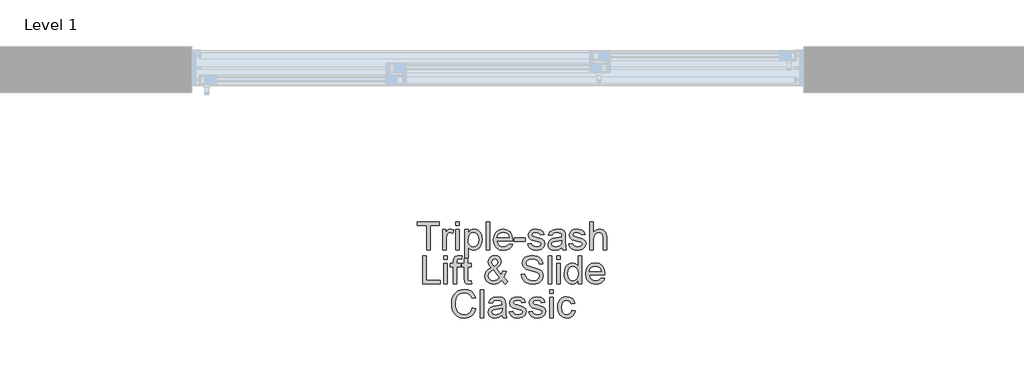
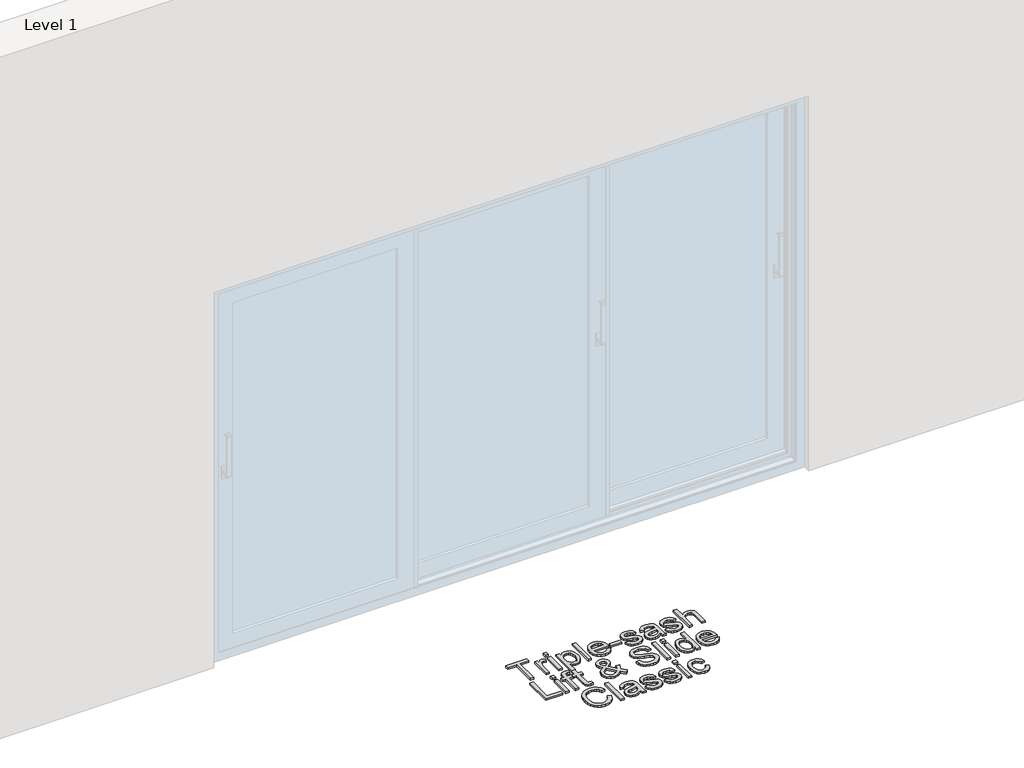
# One storey, part 10 of 17: 1 proxy.
"""IFC4 building model written with IfcOpenShell, lengths in millimetres."""

import ifcopenshell
import ifcopenshell.guid

model = None  # the IFC model being written
_history = None  # IfcOwnerHistory: only IFC2X3 demands one
_inside = {}  # id of a spatial element -> (the spatial element, [elements in it])
_under = {}  # id of a project, library or spatial element -> (it, [spatial elements below it])
_declared = {}  # id of a project -> (the project, [libraries it declares])
_typed = {}  # id of a type object -> (the type object, [elements of that type])
_made_of = {}  # id of a material, layer set ... -> (it, [elements and type objects made of it])


def new_model(schema):
    """Start an empty IFC model of exactly this schema.

    Asked for "IFC4X3", IfcOpenShell would pick the latest addendum, in which some entities
    have other attributes; the version numbers below select the first issue.
    IFC2X3 requires an IfcOwnerHistory on every rooted entity: one is made here for all.
    """
    global model, _history
    if schema == "IFC4X3":
        model = ifcopenshell.file(schema_version=(4, 3, 0, 0))
    else:
        model = ifcopenshell.file(schema=schema)
    _inside.clear()
    _under.clear()
    _declared.clear()
    _typed.clear()
    _made_of.clear()
    _history = None
    if model.schema == "IFC2X3":
        org = make("IfcOrganization", Name="unknown")
        user = make(
            "IfcPersonAndOrganization",
            ThePerson=make("IfcPerson", FamilyName="unknown"),
            TheOrganization=org,
        )
        app = make(
            "IfcApplication",
            ApplicationDeveloper=org,
            Version="unknown",
            ApplicationFullName="unknown",
            ApplicationIdentifier="unknown",
        )
        _history = make(
            "IfcOwnerHistory",
            OwningUser=user,
            OwningApplication=app,
            ChangeAction="ADDED",
            CreationDate=0,
        )
    return model


def make(cls, **values):
    """One entity of the class cls with the attributes given. An attribute that is None is left unset."""
    return model.create_entity(
        cls, **{name: value for name, value in values.items() if value is not None}
    )


def rooted(cls, **values):
    """An entity with a GlobalId (a new one), such as an element, a storey or a relation."""
    return make(cls, GlobalId=ifcopenshell.guid.new(), OwnerHistory=_history, **values)


def si_unit(unit_type, name, prefix=None):
    """IfcSIUnit, for example si_unit("LENGTHUNIT", "METRE", prefix="MILLI")."""
    return make("IfcSIUnit", UnitType=unit_type, Prefix=prefix, Name=name)


def assignment(units):
    """IfcUnitAssignment: the units of a project."""
    return None if units is None else make("IfcUnitAssignment", Units=units)


def point(xyz):
    """IfcCartesianPoint."""
    return None if xyz is None else make("IfcCartesianPoint", Coordinates=xyz)


def direction(xyz):
    """IfcDirection."""
    return None if xyz is None else make("IfcDirection", DirectionRatios=xyz)


def frame(location, z_axis=None, x_axis=None):
    """IfcAxis2Placement3D, a coordinate frame: its origin and axes. An axis left out is left unset."""
    return make(
        "IfcAxis2Placement3D",
        Location=point(location),
        Axis=direction(z_axis),
        RefDirection=direction(x_axis),
    )


def origin():
    """The frame at (0, 0, 0) with its axes left unset."""
    return frame((0.0, 0.0, 0.0))


def origin_with_axes():
    """The frame at (0, 0, 0) with the z axis (0, 0, 1) and the x axis (1, 0, 0) written out."""
    return frame((0.0, 0.0, 0.0), z_axis=(0.0, 0.0, 1.0), x_axis=(1.0, 0.0, 0.0))


def place(relative_to, where):
    """IfcLocalPlacement: puts the frame where relative to a parent placement (None: the world)."""
    return make(
        "IfcLocalPlacement", PlacementRelTo=relative_to, RelativePlacement=where
    )


def context(
    kind, dimensions, precision=None, world=None, true_north=None, identifier=None
):
    """IfcGeometricRepresentationContext, for example the 3D "Model" context."""
    return make(
        "IfcGeometricRepresentationContext",
        ContextIdentifier=identifier,
        ContextType=kind,
        CoordinateSpaceDimension=dimensions,
        Precision=precision,
        WorldCoordinateSystem=world,
        TrueNorth=true_north,
    )


def project(units=None, contexts=None):
    """IfcProject with its units and contexts."""
    return rooted(
        "IfcProject",
        Name="project",
        RepresentationContexts=contexts,
        UnitsInContext=assignment(units),
    )


def spatial(cls, under=None, at=None, **own):
    """A site, building, storey or space (cls), placed at a placement, below another one or the project."""
    s = rooted(cls, ObjectPlacement=at, **own)
    if under is not None:
        _under.setdefault(under.id(), (under, []))[1].append(s)
    return s


def polyline(points):
    """IfcPolyline through the points."""
    return make("IfcPolyline", Points=[point(p) for p in points])


def outline(outer, holes=None, kind="AREA"):
    """IfcArbitraryClosedProfileDef: a profile drawn as a closed curve; with holes, ...WithVoids."""
    if holes is None:
        return make("IfcArbitraryClosedProfileDef", ProfileType=kind, OuterCurve=outer)
    return make(
        "IfcArbitraryProfileDefWithVoids",
        ProfileType=kind,
        OuterCurve=outer,
        InnerCurves=holes,
    )


def extrude(swept, where, along, depth):
    """IfcExtrudedAreaSolid: the profile swept, set in the frame where, extruded along a direction by depth."""
    return make(
        "IfcExtrudedAreaSolid",
        SweptArea=swept,
        Position=where,
        ExtrudedDirection=direction(along),
        Depth=depth,
    )


def shape(context_of_items, identifier, shape_type, items):
    """IfcShapeRepresentation: the items that make up one representation, for example the "Body"."""
    return make(
        "IfcShapeRepresentation",
        ContextOfItems=context_of_items,
        RepresentationIdentifier=identifier,
        RepresentationType=shape_type,
        Items=items,
    )


def made_of(thing, what):
    """Note that an element or type object is made of a material, layer set ...; save() writes the relation."""
    if what is not None:
        _made_of.setdefault(what.id(), (what, []))[1].append(thing)
    return thing


def element(
    cls,
    number,
    at=None,
    inside=None,
    cuts=None,
    type_object=None,
    material=None,
    context=None,
    identifier="Body",
    shape_type=None,
    held_by="IfcProductDefinitionShape",
    body=None,
    shapes=None,
    **own,
):
    """One element of the class cls, such as IfcWall. Its Tag is "e" and its number.

    at: its placement. inside: the storey or other place that contains it. cuts: it is an
    opening in that element (IfcRelVoidsElement). A single representation is given by context,
    identifier, shape_type and body (its items); several are given by shapes. held_by: the class
    of the entity that holds the representations. save() writes the other relations.
    """
    e = rooted(cls, Tag="e%d" % number, ObjectPlacement=at, **own)
    if body is not None:
        shapes = [shape(context, identifier, shape_type, body)]
    if shapes is not None:
        e.Representation = make(held_by, Representations=shapes)
    if inside is not None:
        _inside.setdefault(inside.id(), (inside, []))[1].append(e)
    if cuts is not None:
        rooted(
            "IfcRelVoidsElement", RelatingBuildingElement=cuts, RelatedOpeningElement=e
        )
    if type_object is not None:
        _typed.setdefault(type_object.id(), (type_object, []))[1].append(e)
    return made_of(e, material)


def aggregate(whole, parts):
    """IfcRelAggregates: a whole, such as a stair, and the parts it consists of."""
    return rooted("IfcRelAggregates", RelatingObject=whole, RelatedObjects=parts)


def save(model, path):
    """Write the relations noted so far, then the file.

    IfcRelAggregates (storeys below a building ...), IfcRelContainedInSpatialStructure (elements
    in a storey), IfcRelDefinesByType, IfcRelAssociatesMaterial and IfcRelDeclares: one each for
    every whole, place, type object, material and project.
    """
    for whole, parts in _under.values():
        aggregate(whole, parts)
    for where, things in _inside.values():
        rooted(
            "IfcRelContainedInSpatialStructure",
            RelatedElements=things,
            RelatingStructure=where,
        )
    for kind, things in _typed.values():
        rooted("IfcRelDefinesByType", RelatedObjects=things, RelatingType=kind)
    for what, things in _made_of.values():
        rooted("IfcRelAssociatesMaterial", RelatedObjects=things, RelatingMaterial=what)
    for by, libraries in _declared.values():
        rooted("IfcRelDeclares", RelatingContext=by, RelatedDefinitions=libraries)
    model.write(path)


model = new_model("IFC4")

# Units and contexts
model_context = context("Model", 3, world=origin())
ifc_project = project(units=[si_unit("LENGTHUNIT", "METRE", prefix="MILLI")], contexts=[model_context])

# Site, building, storey
site = spatial("IfcSite", under=ifc_project)
building = spatial("IfcBuilding", under=site)
storey = spatial("IfcBuildingStorey", under=building, Name="Level 1", Elevation=0.0)

# Proxy
placement = place(None, origin())
element("IfcBuildingElementProxy", 1, Name="150mm Arial", ObjectType="150mm Arial", at=placement, inside=storey, context=model_context, shape_type="SweptSolid", body=[
    extrude(outline(polyline([(12044.3509661, -991.3626427), (12044.3509661, -859.5137356), (11994.907626, -859.5137356), (11994.907626, -840.6781775), (12112.6298644, -840.6781775), (12112.6298644, -859.5137356), (12063.1865243, -859.5137356), (12063.1865243, -991.3626427), (12044.3509661, -991.3626427)])), origin_with_axes(), (0.0, 0.0, 1.0), 10.0),
    extrude(outline(polyline([(12131.4654226, -991.3626427), (12131.4654226, -880.7037385), (12147.946536, -880.7037385), (12147.946536, -897.0744873), (12159.6451834, -881.9913255), (12171.4174073, -878.3492938), (12190.3265418, -884.1618293), (12184.0357597, -901.0476129), (12170.7920079, -897.1848519), (12160.1418241, -900.9004601), (12153.3544013, -911.2011559), (12150.3009807, -933.2004992), (12150.3009807, -991.3626427), (12131.4654226, -991.3626427)])), origin_with_axes(), (0.0, 0.0, 1.0), 10.0),
    extrude(outline(polyline([(12202.0987657, -859.5137356), (12202.0987657, -840.6781775), (12220.9343238, -840.6781775), (12220.9343238, -859.5137356), (12202.0987657, -859.5137356)])), origin_with_axes(), (0.0, 0.0, 1.0), 10.0),
    extrude(outline(polyline([(12202.0987657, -991.3626427), (12202.0987657, -880.7037385), (12220.9343238, -880.7037385), (12220.9343238, -991.3626427), (12202.0987657, -991.3626427)])), origin_with_axes(), (0.0, 0.0, 1.0), 10.0),
    extrude(outline(polyline([(12249.1876611, -1033.7426485), (12249.1876611, -880.7037385), (12268.0232192, -880.7037385), (12268.0232192, -899.1714147), (12281.0462418, -883.554824), (12298.6310012, -878.3492938), (12311.3689153, -880.1703096), (12322.5065427, -885.6333573), (12331.5748339, -894.4073429), (12338.1047393, -906.1611726), (12343.3654518, -935.187062), (12341.8801283, -951.2956949), (12337.4241576, -965.7028735), (12330.1400941, -977.6774325), (12320.170492, -986.4882062), (12308.5592165, -991.9098671), (12296.3501328, -993.7170875), (12279.9609899, -988.8794392), (12268.0232192, -976.6473629), (12268.0232192, -1033.7426485), (12249.1876611, -1033.7426485)]), holes=[polyline([(12268.0232192, -936.9161074), (12270.0603658, -953.801891), (12276.1718054, -965.610903), (12285.1895128, -972.5638727), (12295.9454626, -974.8815293), (12306.8761564, -972.4810993), (12316.1237901, -965.2798092), (12322.4283678, -953.0385358), (12324.5298937, -935.5181558), (12322.4789515, -918.7243427), (12316.3261252, -906.7497838), (12307.3222133, -899.5760849), (12296.7180148, -897.1848519), (12286.0724296, -899.7278362), (12276.7236284, -907.3567891), (12270.1983215, -919.8325872), (12268.0232192, -936.9161074)])]), origin_with_axes(), (0.0, 0.0, 1.0), 10.0),
    extrude(outline(polyline([(12364.5554547, -991.3626427), (12364.5554547, -840.6781775), (12383.3910129, -840.6781775), (12383.3910129, -991.3626427), (12364.5554547, -991.3626427)])), origin_with_axes(), (0.0, 0.0, 1.0), 10.0),
    extrude(outline(polyline([(12489.1202983, -958.4004159), (12507.5879745, -960.7548607), (12500.9339089, -974.6699972), (12490.3159148, -985.0718606), (12475.9731155, -991.5557807), (12458.1446343, -993.7170875), (12436.0441235, -989.9876837), (12419.0387782, -978.7994725), (12408.1954564, -960.8790209), (12404.5810158, -936.9528956), (12408.2322446, -912.2220285), (12419.185931, -893.7267612), (12435.96135, -882.1936606), (12457.0777765, -878.3492938), (12477.536614, -882.1844636), (12493.8843701, -893.689973), (12504.6035318, -912.1484521), (12508.1765857, -936.842531), (12508.0662211, -941.9193025), (12423.416574, -941.9193025), (12426.6769281, -956.01838), (12434.2506987, -966.3834552), (12445.1813925, -972.7570108), (12458.5125163, -974.8815293), (12476.9801925, -970.9451919), (12489.1202983, -958.4004159)]), holes=[polyline([(12423.416574, -923.0837444), (12489.3410275, -923.0837444), (12486.7934447, -913.1325364), (12481.7994466, -906.0140198), (12470.818169, -899.3921439), (12457.0042001, -897.1848519), (12444.3076728, -898.946087), (12433.8092403, -904.2297921), (12426.5113813, -912.4657503), (12423.416574, -923.0837444)])]), origin_with_axes(), (0.0, 0.0, 1.0), 10.0),
    extrude(outline(polyline([(12517.5943647, -946.6281921), (12517.5943647, -927.7926339), (12576.455484, -927.7926339), (12576.455484, -946.6281921), (12517.5943647, -946.6281921)])), origin_with_axes(), (0.0, 0.0, 1.0), 10.0),
    extrude(outline(polyline([(12590.5821526, -958.4004159), (12609.4177107, -956.0459711), (12612.3883578, -964.1025868), (12618.136514, -970.025487), (12638.1125064, -974.8815293), (12657.3159465, -970.4301572), (12663.5699404, -959.9823085), (12661.9972449, -955.1814485), (12657.2791583, -951.5210226), (12637.8917772, -946.1499455), (12609.5280753, -936.9345015), (12597.1488462, -926.1739531), (12592.9365973, -910.9804267), (12596.3211117, -896.9457286), (12605.5549498, -886.2219685), (12617.5295087, -880.6485562), (12633.7347106, -878.3492938), (12656.6537589, -882.0465078), (12671.2218859, -892.0528981), (12677.696609, -908.9570758), (12658.8610509, -911.3115205), (12651.7793225, -900.9188542), (12635.2062386, -897.1848519), (12617.1800208, -900.7533073), (12611.7721555, -909.0674404), (12614.0162357, -914.5488821), (12621.0427818, -918.7059486), (12637.2663778, -922.7158624), (12664.9127097, -931.5818185), (12677.7517913, -941.6249969), (12682.4054986, -957.9957457), (12676.9424509, -976.0219635), (12661.1787074, -989.1001684), (12637.854989, -993.7170875), (12618.863081, -991.4914014), (12605.0031268, -984.8143432), (12595.7508946, -973.7594892), (12590.5821526, -958.4004159)])), origin_with_axes(), (0.0, 0.0, 1.0), 10.0),
    extrude(outline(polyline([(12774.2288446, -977.2359741), (12755.9635035, -990.0014793), (12735.7851761, -993.7170875), (12720.0444252, -991.4822043), (12708.4331497, -984.777555), (12701.2732464, -974.5964208), (12698.886612, -961.9320831), (12702.4918555, -947.0328623), (12711.9648169, -936.2171316), (12725.1533864, -930.0367141), (12741.4505588, -927.2040227), (12774.11848, -920.7292996), (12774.2288446, -916.5354449), (12772.9320605, -908.1293413), (12769.0417084, -902.6295054), (12760.3412992, -898.5460153), (12748.2195875, -897.1848519), (12729.1633002, -900.8084896), (12720.0766149, -913.6659653), (12701.2410567, -911.3115205), (12709.3896429, -892.9174208), (12725.7971799, -882.1384783), (12750.6476087, -878.3492938), (12773.4746865, -881.6970199), (12786.3689504, -890.1031235), (12792.1446977, -902.8870228), (12793.0644027, -919.3681362), (12793.0644027, -942.8022193), (12794.0208959, -975.5253228), (12797.7732923, -991.3626427), (12778.9377341, -991.3626427), (12774.2288446, -977.2359741)]), holes=[polyline([(12774.2288446, -939.5648578), (12743.8417918, -945.3406051), (12727.6365899, -948.3940256), (12720.2973441, -953.3604326), (12717.7221701, -960.6077079), (12723.3323705, -970.7980392), (12739.7950898, -974.8815293), (12758.8513772, -970.3749749), (12771.1386358, -959.4672737), (12774.11848, -944.8991467), (12774.2288446, -939.5648578)])]), origin_with_axes(), (0.0, 0.0, 1.0), 10.0),
    extrude(outline(polyline([(12811.8999609, -958.4004159), (12830.735519, -956.0459711), (12833.7061661, -964.1025868), (12839.4543223, -970.025487), (12859.4303147, -974.8815293), (12878.6337548, -970.4301572), (12884.8877487, -959.9823085), (12883.3150532, -955.1814485), (12878.5969666, -951.5210226), (12859.2095855, -946.1499455), (12830.8458836, -936.9345015), (12818.4666545, -926.1739531), (12814.2544056, -910.9804267), (12817.63892, -896.9457286), (12826.8727581, -886.2219685), (12838.847317, -880.6485562), (12855.0525189, -878.3492938), (12877.9715672, -882.0465078), (12892.5396942, -892.0528981), (12899.0144173, -908.9570758), (12880.1788592, -911.3115205), (12873.0971308, -900.9188542), (12856.5240469, -897.1848519), (12838.4978291, -900.7533073), (12833.0899638, -909.0674404), (12835.334044, -914.5488821), (12842.3605901, -918.7059486), (12858.5841861, -922.7158624), (12886.230518, -931.5818185), (12899.0695996, -941.6249969), (12903.7233069, -957.9957457), (12898.2602592, -976.0219635), (12882.4965157, -989.1001684), (12859.1727973, -993.7170875), (12840.1808893, -991.4914014), (12826.3209351, -984.8143432), (12817.0687029, -973.7594892), (12811.8999609, -958.4004159)])), origin_with_axes(), (0.0, 0.0, 1.0), 10.0),
    extrude(outline(polyline([(12924.9133098, -991.3626427), (12924.9133098, -840.6781775), (12943.7488679, -840.6781775), (12943.7488679, -896.0812059), (12958.4365566, -882.7822718), (12976.5271537, -878.3492938), (12997.6803684, -883.186942), (13010.5194501, -896.5594525), (13014.382211, -921.3179108), (13014.382211, -991.3626427), (12995.5466529, -991.3626427), (12995.5466529, -923.2676854), (12994.0475337, -911.4770674), (12989.5501763, -903.4020576), (12982.302901, -898.7391533), (12972.5540282, -897.1848519), (12957.1213785, -901.3787067), (12946.8206826, -912.7462603), (12943.7488679, -932.5750999), (12943.7488679, -991.3626427), (12924.9133098, -991.3626427)])), origin_with_axes(), (0.0, 0.0, 1.0), 10.0),
    extrude(outline(polyline([(12023.1609632, -1174.3248694), (12023.1609632, -1023.6404042), (12041.9965214, -1023.6404042), (12041.9965214, -1155.4893113), (12117.338754, -1155.4893113), (12117.338754, -1174.3248694), (12023.1609632, -1174.3248694)])), origin_with_axes(), (0.0, 0.0, 1.0), 10.0),
    extrude(outline(polyline([(12136.1743121, -1042.4759624), (12136.1743121, -1023.6404042), (12155.0098703, -1023.6404042), (12155.0098703, -1042.4759624), (12136.1743121, -1042.4759624)])), origin_with_axes(), (0.0, 0.0, 1.0), 10.0),
    extrude(outline(polyline([(12136.1743121, -1174.3248694), (12136.1743121, -1063.6659653), (12155.0098703, -1063.6659653), (12155.0098703, -1174.3248694), (12136.1743121, -1174.3248694)])), origin_with_axes(), (0.0, 0.0, 1.0), 10.0),
    extrude(outline(polyline([(12187.9720971, -1174.3248694), (12187.9720971, -1082.5015235), (12171.4909837, -1082.5015235), (12171.4909837, -1063.6659653), (12187.9720971, -1063.6659653), (12187.9720971, -1052.5191408), (12189.9586598, -1036.8105797), (12199.5971681, -1025.5901788), (12218.5798791, -1021.2859595), (12235.7599682, -1023.3460986), (12233.0008533, -1041.0044344), (12222.1483344, -1040.1215176), (12210.2841401, -1043.2485146), (12206.8076552, -1054.9103738), (12206.8076552, -1063.6659653), (12227.9976581, -1063.6659653), (12227.9976581, -1082.5015235), (12206.8076552, -1082.5015235), (12206.8076552, -1174.3248694), (12187.9720971, -1174.3248694)])), origin_with_axes(), (0.0, 0.0, 1.0), 10.0),
    extrude(outline(polyline([(12284.5043326, -1158.6163083), (12286.8587774, -1174.8766924), (12272.7688969, -1176.6793142), (12256.9867593, -1173.5523173), (12249.1140847, -1165.3485488), (12246.8332163, -1143.9746048), (12246.8332163, -1082.5015235), (12232.7065477, -1082.5015235), (12232.7065477, -1063.6659653), (12246.8332163, -1063.6659653), (12246.8332163, -1036.7737915), (12265.6687744, -1025.7005434), (12265.6687744, -1063.6659653), (12284.5043326, -1063.6659653), (12284.5043326, -1082.5015235), (12265.6687744, -1082.5015235), (12265.6687744, -1143.4227819), (12266.6620558, -1153.1348665), (12269.8810233, -1156.5745632), (12276.3005641, -1157.8437561), (12284.5043326, -1158.6163083)])), origin_with_axes(), (0.0, 0.0, 1.0), 10.0),
    extrude(outline(polyline([(12448.6164906, -1155.7100405), (12428.6404983, -1171.4369958), (12405.2799916, -1176.6793142), (12384.4946589, -1172.7981592), (12368.4917921, -1161.154694), (12360.2420383, -1147.7545923), (12357.4921204, -1132.8645686), (12359.7040109, -1119.666802), (12366.3396824, -1107.8118047), (12377.3715437, -1097.3087738), (12392.7720038, -1088.1669062), (12379.6202224, -1069.1106188), (12376.3276786, -1054.9839502), (12378.9212467, -1042.2644302), (12386.7019508, -1031.3291379), (12398.4097953, -1023.7967541), (12412.7847843, -1021.2859595), (12426.4607975, -1023.6863895), (12437.3960898, -1030.8876795), (12444.5697887, -1041.4550898), (12446.9610217, -1053.9538806), (12445.1905896, -1064.4477145), (12439.8792933, -1074.1506022), (12418.634108, -1091.1835385), (12445.8941639, -1125.1390467), (12454.024356, -1104.2801376), (12472.8599141, -1108.3636277), (12459.5425859, -1139.3760799), (12482.2776932, -1162.1847636), (12468.1510246, -1176.6793142), (12448.6164906, -1155.7100405)]), holes=[polyline([(12409.1059644, -1079.3009501), (12424.5937964, -1067.6206967), (12428.1254635, -1056.5290546), (12423.4717563, -1044.7016484), (12411.8282911, -1040.1215176), (12399.9273086, -1044.6648602), (12395.1632367, -1055.7565024), (12396.7819175, -1062.6542898), (12401.6747481, -1070.3246294), (12409.1059644, -1079.3009501)]), polyline([(12435.9981382, -1142.1351949), (12402.3737238, -1100.1598592), (12381.6803616, -1115.9419968), (12376.3276786, -1130.362971), (12378.1578915, -1139.2473212), (12383.6485303, -1148.4627652), (12392.4960923, -1155.4985083), (12404.3970748, -1157.8437561), (12421.7059227, -1153.4659603), (12435.9981382, -1142.1351949)])]), origin_with_axes(), (0.0, 0.0, 1.0), 10.0),
    extrude(outline(polyline([(12555.265481, -1122.5270845), (12574.1010392, -1122.5270845), (12580.1710921, -1141.3810368), (12594.9967365, -1153.3004134), (12617.584691, -1157.8437561), (12637.2663778, -1154.4040594), (12649.9767007, -1144.9494921), (12654.1521613, -1132.3127456), (12651.0251644, -1120.5589159), (12638.222871, -1112.0056595), (12610.7972682, -1104.8135665), (12581.2747381, -1095.5245461), (12565.2534772, -1081.5082421), (12559.9743706, -1062.7830485), (12561.6068469, -1051.7511872), (12566.504276, -1041.4642869), (12574.5378991, -1032.7454836), (12585.5789574, -1026.4179133), (12613.5012009, -1021.2859595), (12643.2996425, -1026.6570366), (12654.7223784, -1033.2881095), (12663.1652702, -1042.4391742), (12668.5087562, -1053.5400134), (12670.6332747, -1066.0204101), (12651.7977166, -1066.0204101), (12648.3396258, -1054.7816151), (12641.1291387, -1046.6698171), (12629.8627526, -1041.7585925), (12614.2369649, -1040.1215176), (12598.2432951, -1041.7401984), (12587.2712146, -1046.5962407), (12580.9252502, -1053.7423485), (12578.8099287, -1062.2312255), (12580.3090479, -1069.4693038), (12584.8064053, -1075.2910363), (12615.56134, -1085.8124614), (12648.8914488, -1095.2670287), (12659.6290045, -1102.1004367), (12667.1200017, -1110.5341315), (12671.52079, -1120.4761424), (12672.9877195, -1131.834499), (12671.3000608, -1143.4457745), (12666.2370849, -1154.3672712), (12658.0057252, -1163.7666562), (12646.8129155, -1170.8115964), (12633.353033, -1175.2123848), (12618.320455, -1176.6793142), (12599.8665744, -1175.0974216), (12584.6776466, -1170.3517439), (12572.5789274, -1162.4238869), (12563.3956731, -1151.2954566), (12557.5003642, -1137.739005), (12555.265481, -1122.5270845)])), origin_with_axes(), (0.0, 0.0, 1.0), 10.0),
    extrude(outline(polyline([(12698.886612, -1174.3248694), (12698.886612, -1023.6404042), (12717.7221701, -1023.6404042), (12717.7221701, -1174.3248694), (12698.886612, -1174.3248694)])), origin_with_axes(), (0.0, 0.0, 1.0), 10.0),
    extrude(outline(polyline([(12745.9755073, -1042.4759624), (12745.9755073, -1023.6404042), (12764.8110655, -1023.6404042), (12764.8110655, -1042.4759624), (12745.9755073, -1042.4759624)])), origin_with_axes(), (0.0, 0.0, 1.0), 10.0),
    extrude(outline(polyline([(12745.9755073, -1174.3248694), (12745.9755073, -1063.6659653), (12764.8110655, -1063.6659653), (12764.8110655, -1174.3248694), (12745.9755073, -1174.3248694)])), origin_with_axes(), (0.0, 0.0, 1.0), 10.0),
    extrude(outline(polyline([(12861.343301, -1174.3248694), (12861.343301, -1156.5561691), (12848.8812984, -1171.6485279), (12831.655224, -1176.6793142), (12819.47833, -1174.8582983), (12808.3315055, -1169.3952507), (12798.8953323, -1160.6718489), (12791.8503921, -1149.0697705), (12787.4633993, -1135.058065), (12786.0010684, -1119.105782), (12791.3905396, -1089.1233994), (12798.1227802, -1077.2316139), (12807.5405592, -1068.4852194), (12818.9311055, -1063.1049453), (12831.5816476, -1061.3115205), (12848.9456778, -1066.4434744), (12861.343301, -1079.7791967), (12861.343301, -1023.6404042), (12880.1788592, -1023.6404042), (12880.1788592, -1174.3248694), (12861.343301, -1174.3248694)]), holes=[polyline([(12804.8366266, -1119.0322056), (12806.9611451, -1136.0697405), (12813.3347007, -1148.1868537), (12822.5961299, -1155.4295305), (12833.3842694, -1157.8437561), (12844.1678104, -1155.5398951), (12853.1947148, -1148.6283121), (12859.3061545, -1136.9802484), (12861.343301, -1120.4669454), (12859.2693663, -1102.4131364), (12853.047562, -1089.8959516), (12843.7907313, -1082.5842969), (12832.6117172, -1080.1470787), (12821.7132131, -1082.4877279), (12812.7828777, -1089.5096755), (12806.8231893, -1101.5716064), (12804.8366266, -1119.0322056)])]), origin_with_axes(), (0.0, 0.0, 1.0), 10.0),
    extrude(outline(polyline([(12985.9081446, -1141.3626427), (13004.3758208, -1143.7170875), (12997.7217552, -1157.6322239), (12987.1037611, -1168.0340873), (12972.7609618, -1174.5180075), (12954.9324806, -1176.6793142), (12932.8319697, -1172.9499105), (12915.8266245, -1161.7616993), (12904.9833027, -1143.8412476), (12901.3688621, -1119.9151224), (12905.0200909, -1095.1842552), (12915.9737773, -1076.6889879), (12932.7491963, -1065.1558874), (12953.8656228, -1061.3115205), (12974.3244603, -1065.1466903), (12990.6722164, -1076.6521997), (13001.3913781, -1095.1106788), (13004.9644319, -1119.8047578), (13004.8540673, -1124.8815293), (12920.2044203, -1124.8815293), (12923.4647744, -1138.9806068), (12931.038545, -1149.345682), (12941.9692388, -1155.7192375), (12955.3003626, -1157.8437561), (12973.7680388, -1153.9074187), (12985.9081446, -1141.3626427)]), holes=[polyline([(12920.2044203, -1106.0459711), (12986.1288738, -1106.0459711), (12983.581291, -1096.0947632), (12978.5872929, -1088.9762466), (12967.6060153, -1082.3543707), (12953.7920464, -1080.1470787), (12941.0955191, -1081.9083137), (12930.5970866, -1087.1920189), (12923.2992275, -1095.4279771), (12920.2044203, -1106.0459711)])]), origin_with_axes(), (0.0, 0.0, 1.0), 10.0),
    extrude(outline(polyline([(12291.5676669, -1303.7234777), (12310.403225, -1308.5795201), (12301.7120129, -1330.5282796), (12288.0727879, -1346.5633361), (12270.1569348, -1356.3719898), (12248.6358381, -1359.641541), (12226.7882461, -1357.1675346), (12209.4380115, -1349.7455153), (12196.1390773, -1337.6330006), (12186.4453868, -1321.0875079), (12180.5270852, -1301.6357474), (12178.554318, -1280.8044294), (12180.7846026, -1258.8326773), (12187.4754564, -1239.8591634), (12198.2773914, -1224.4862945), (12212.8409199, -1213.3164774), (12230.1129796, -1206.515259), (12249.0405083, -1204.2481862), (12269.6924838, -1207.1820451), (12286.7668069, -1215.9836219), (12299.7300487, -1230.1102905), (12308.0487803, -1249.019425), (12289.2132221, -1253.5075854), (12282.6833167, -1239.7717914), (12273.7621783, -1230.3494138), (12262.3394424, -1224.9001617), (12248.3047443, -1223.0837444), (12232.1271335, -1225.0978983), (12218.8373964, -1231.1403601), (12208.7528313, -1240.5765332), (12202.1907362, -1252.7718214), (12197.3898761, -1280.7676412), (12198.8108203, -1298.1684596), (12203.073653, -1313.2148332), (12210.3393224, -1325.3319464), (12220.7687769, -1333.9449836), (12233.2721662, -1339.090733), (12246.7596399, -1340.8059828), (12262.4819967, -1338.4699322), (12275.5831942, -1331.4617802), (12285.4746214, -1319.8551032), (12291.5676669, -1303.7234777)])), origin_with_axes(), (0.0, 0.0, 1.0), 10.0),
    extrude(outline(polyline([(12333.9476727, -1357.2870962), (12333.9476727, -1206.602631), (12352.7832309, -1206.602631), (12352.7832309, -1357.2870962), (12333.9476727, -1357.2870962)])), origin_with_axes(), (0.0, 0.0, 1.0), 10.0),
    extrude(outline(polyline([(12451.6699112, -1343.1604276), (12433.4045701, -1355.9259328), (12413.2262427, -1359.641541), (12397.4854918, -1357.4066579), (12385.8742164, -1350.7020085), (12378.714313, -1340.5208743), (12376.3276786, -1327.8565366), (12379.9329221, -1312.9573158), (12389.4058835, -1302.1415851), (12402.594453, -1295.9611676), (12418.8916254, -1293.1284763), (12451.5595466, -1286.6537531), (12451.6699112, -1282.4598984), (12450.3731272, -1274.0537948), (12446.4827751, -1268.553959), (12437.7823659, -1264.4704688), (12425.6606541, -1263.1093055), (12406.6043668, -1266.7329431), (12397.5176815, -1279.5904188), (12378.6821234, -1277.2359741), (12386.8307095, -1258.8418743), (12403.2382465, -1248.0629318), (12428.0886753, -1244.2737473), (12450.9157531, -1247.6214735), (12463.810017, -1256.027577), (12469.5857644, -1268.8114764), (12470.5054693, -1285.2925898), (12470.5054693, -1308.7266729), (12471.4619625, -1341.4497763), (12475.2143589, -1357.2870962), (12456.3788007, -1357.2870962), (12451.6699112, -1343.1604276)]), holes=[polyline([(12451.6699112, -1305.4893113), (12421.2828584, -1311.2650586), (12405.0776565, -1314.3184792), (12397.7384107, -1319.2848861), (12395.1632367, -1326.5321614), (12400.7734372, -1336.7224927), (12417.2361564, -1340.8059828), (12436.2924438, -1336.2994284), (12448.5797024, -1325.3917272), (12451.5595466, -1310.8236002), (12451.6699112, -1305.4893113)])]), origin_with_axes(), (0.0, 0.0, 1.0), 10.0),
    extrude(outline(polyline([(12489.3410275, -1324.3248694), (12508.1765857, -1321.9704247), (12511.1472328, -1330.0270404), (12516.8953889, -1335.9499405), (12536.8713813, -1340.8059828), (12556.0748214, -1336.3546107), (12562.3288153, -1325.906762), (12560.7561198, -1321.105902), (12556.0380332, -1317.4454761), (12536.6506521, -1312.074399), (12508.2869503, -1302.858955), (12495.9077211, -1292.0984067), (12491.6954723, -1276.9048803), (12495.0799866, -1262.8701822), (12504.3138247, -1252.146422), (12516.2883836, -1246.5730098), (12532.4935855, -1244.2737473), (12555.4126338, -1247.9709614), (12569.9807608, -1257.9773516), (12576.455484, -1274.8815293), (12557.6199258, -1277.2359741), (12550.5381974, -1266.8433077), (12533.9651135, -1263.1093055), (12515.9388958, -1266.6777608), (12510.5310304, -1274.9918939), (12512.7751106, -1280.4733356), (12519.8016567, -1284.6304022), (12536.0252527, -1288.6403159), (12563.6715846, -1297.506272), (12576.5106663, -1307.5494505), (12581.1643735, -1323.9201993), (12575.7013259, -1341.946417), (12559.9375824, -1355.0246219), (12536.6138639, -1359.641541), (12517.6219559, -1357.4158549), (12503.7620017, -1350.7387967), (12494.5097695, -1339.6839427), (12489.3410275, -1324.3248694)])), origin_with_axes(), (0.0, 0.0, 1.0), 10.0),
    extrude(outline(polyline([(12595.2910421, -1324.3248694), (12614.1266003, -1321.9704247), (12617.0972474, -1330.0270404), (12622.8454036, -1335.9499405), (12642.8213959, -1340.8059828), (12662.024836, -1336.3546107), (12668.27883, -1325.906762), (12666.7061344, -1321.105902), (12661.9880478, -1317.4454761), (12642.6006667, -1312.074399), (12614.2369649, -1302.858955), (12601.8577357, -1292.0984067), (12597.6454869, -1276.9048803), (12601.0300012, -1262.8701822), (12610.2638393, -1252.146422), (12622.2383983, -1246.5730098), (12638.4436001, -1244.2737473), (12661.3626484, -1247.9709614), (12675.9307755, -1257.9773516), (12682.4054986, -1274.8815293), (12663.5699404, -1277.2359741), (12656.488212, -1266.8433077), (12639.9151281, -1263.1093055), (12621.8889104, -1266.6777608), (12616.481045, -1274.9918939), (12618.7251252, -1280.4733356), (12625.7516713, -1284.6304022), (12641.9752673, -1288.6403159), (12669.6215992, -1297.506272), (12682.4606809, -1307.5494505), (12687.1143881, -1323.9201993), (12681.6513405, -1341.946417), (12665.887597, -1355.0246219), (12642.5638785, -1359.641541), (12623.5719705, -1357.4158549), (12609.7120163, -1350.7387967), (12600.4597841, -1339.6839427), (12595.2910421, -1324.3248694)])), origin_with_axes(), (0.0, 0.0, 1.0), 10.0),
    extrude(outline(polyline([(12708.304391, -1225.4381891), (12708.304391, -1206.602631), (12727.1399492, -1206.602631), (12727.1399492, -1225.4381891), (12708.304391, -1225.4381891)])), origin_with_axes(), (0.0, 0.0, 1.0), 10.0),
    extrude(outline(polyline([(12708.304391, -1357.2870962), (12708.304391, -1246.6281921), (12727.1399492, -1246.6281921), (12727.1399492, -1357.2870962), (12708.304391, -1357.2870962)])), origin_with_axes(), (0.0, 0.0, 1.0), 10.0),
    extrude(outline(polyline([(12826.0266295, -1317.2615351), (12844.8621876, -1319.6159799), (12839.6106722, -1336.3684063), (12829.7422376, -1349.0281454), (12816.1857861, -1356.9881921), (12799.8702196, -1359.641541), (12779.8344465, -1355.9397284), (12764.167272, -1344.8342907), (12754.0551157, -1326.8126714), (12750.6843969, -1302.3623143), (12752.1237352, -1285.6006909), (12756.4417501, -1271.0739506), (12763.7074195, -1259.3431135), (12773.9897213, -1250.9691996), (12786.2907755, -1245.9476104), (12799.6127022, -1244.2737473), (12815.5281971, -1246.5730098), (12828.2523156, -1253.4707972), (12837.3803876, -1264.5992275), (12842.5077429, -1279.5904188), (12823.6721847, -1281.9448636), (12814.9349873, -1267.8365891), (12799.759855, -1263.1093055), (12787.5875595, -1265.4361591), (12777.9260586, -1272.4167199), (12771.6214809, -1284.4280671), (12769.519955, -1301.8472795), (12771.5754957, -1319.5010168), (12777.7421176, -1331.5537507), (12787.2288746, -1338.4929248), (12799.2448202, -1340.8059828), (12808.9982916, -1339.362046), (12816.9951265, -1335.0302355), (12822.8122606, -1327.7001868), (12826.0266295, -1317.2615351)])), origin_with_axes(), (0.0, 0.0, 1.0), 10.0),
])

save(model, "model.ifc")
